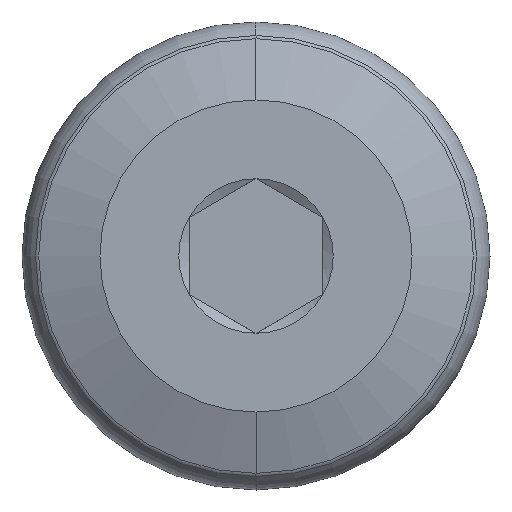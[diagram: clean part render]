
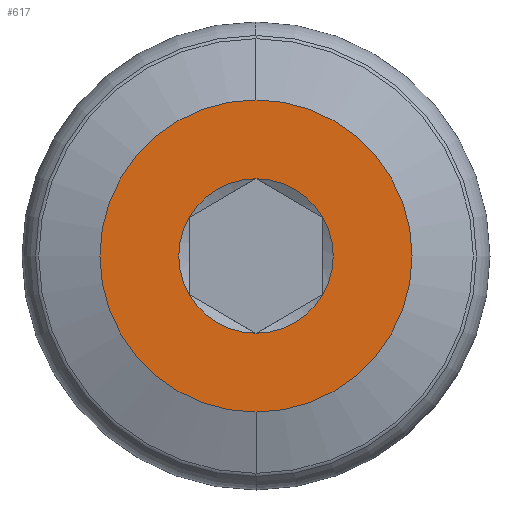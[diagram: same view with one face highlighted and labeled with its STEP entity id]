
A CAD part, left-side view. The second image highlights one B-rep face of the part: STEP entity #617.
In plain terms, the highlighted planar face has unit normal (-1, 0, 0).
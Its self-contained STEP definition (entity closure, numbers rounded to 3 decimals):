
#2 = DIRECTION ( 'NONE',  ( 0., 0., -1. ) ) ;
#25 = VERTEX_POINT ( 'NONE', #403 ) ;
#53 = VERTEX_POINT ( 'NONE', #69 ) ;
#69 = CARTESIAN_POINT ( 'NONE',  ( 0., 0., -3.5 ) ) ;
#73 = ORIENTED_EDGE ( 'NONE', *, *, #488, .T. ) ;
#75 = CARTESIAN_POINT ( 'NONE',  ( 0., 0., 0. ) ) ;
#110 = CARTESIAN_POINT ( 'NONE',  ( 0., 0., 0. ) ) ;
#127 = VERTEX_POINT ( 'NONE', #561 ) ;
#130 = ORIENTED_EDGE ( 'NONE', *, *, #410, .T. ) ;
#158 = CARTESIAN_POINT ( 'NONE',  ( 0., 0., 0. ) ) ;
#163 = CIRCLE ( 'NONE', #430, 1.732 ) ;
#194 = CIRCLE ( 'NONE', #804, 1.732 ) ;
#195 = AXIS2_PLACEMENT_3D ( 'NONE', #158, #489, #431 ) ;
#210 = AXIS2_PLACEMENT_3D ( 'NONE', #657, #273, #600 ) ;
#223 = CIRCLE ( 'NONE', #793, 1.732 ) ;
#225 = VERTEX_POINT ( 'NONE', #318 ) ;
#229 = CARTESIAN_POINT ( 'NONE',  ( 0., -1.5, -0.866 ) ) ;
#232 = EDGE_CURVE ( 'NONE', #686, #517, #290, .T. ) ;
#243 = CIRCLE ( 'NONE', #322, 1.732 ) ;
#244 = EDGE_LOOP ( 'NONE', ( #729, #525 ) ) ;
#246 = DIRECTION ( 'NONE',  ( 0., 0., -1. ) ) ;
#267 = CARTESIAN_POINT ( 'NONE',  ( 0., 0., 1.732 ) ) ;
#272 = ORIENTED_EDGE ( 'NONE', *, *, #232, .T. ) ;
#273 = DIRECTION ( 'NONE',  ( -1., 0., 0. ) ) ;
#279 = DIRECTION ( 'NONE',  ( 1., 0., 0. ) ) ;
#290 = CIRCLE ( 'NONE', #740, 1.732 ) ;
#318 = CARTESIAN_POINT ( 'NONE',  ( 0., 1.5, -0.866 ) ) ;
#322 = AXIS2_PLACEMENT_3D ( 'NONE', #377, #425, #246 ) ;
#335 = CARTESIAN_POINT ( 'NONE',  ( 0., -1.5, 0.866 ) ) ;
#349 = ORIENTED_EDGE ( 'NONE', *, *, #825, .T. ) ;
#363 = EDGE_CURVE ( 'NONE', #25, #53, #689, .T. ) ;
#377 = CARTESIAN_POINT ( 'NONE',  ( 0., 0., 0. ) ) ;
#393 = DIRECTION ( 'NONE',  ( 1., 0., 0. ) ) ;
#400 = EDGE_CURVE ( 'NONE', #517, #552, #223, .T. ) ;
#403 = CARTESIAN_POINT ( 'NONE',  ( 0., 0., 3.5 ) ) ;
#404 = FACE_OUTER_BOUND ( 'NONE', #244, .T. ) ;
#410 = EDGE_CURVE ( 'NONE', #552, #743, #163, .T. ) ;
#425 = DIRECTION ( 'NONE',  ( 1., 0., 0. ) ) ;
#430 = AXIS2_PLACEMENT_3D ( 'NONE', #75, #533, #2 ) ;
#431 = DIRECTION ( 'NONE',  ( 0., 0., -1. ) ) ;
#453 = CIRCLE ( 'NONE', #195, 3.5 ) ;
#462 = CARTESIAN_POINT ( 'NONE',  ( 0., 0., 0. ) ) ;
#476 = DIRECTION ( 'NONE',  ( 0., 0., -1. ) ) ;
#482 = CARTESIAN_POINT ( 'NONE',  ( 0., 1.5, 0.866 ) ) ;
#488 = EDGE_CURVE ( 'NONE', #127, #225, #194, .T. ) ;
#489 = DIRECTION ( 'NONE',  ( 1., 0., 0. ) ) ;
#499 = CARTESIAN_POINT ( 'NONE',  ( 0., 0., 0. ) ) ;
#517 = VERTEX_POINT ( 'NONE', #267 ) ;
#525 = ORIENTED_EDGE ( 'NONE', *, *, #363, .F. ) ;
#527 = PLANE ( 'NONE',  #210 ) ;
#529 = DIRECTION ( 'NONE',  ( 0., 0., -1. ) ) ;
#533 = DIRECTION ( 'NONE',  ( 1., 0., 0. ) ) ;
#552 = VERTEX_POINT ( 'NONE', #335 ) ;
#561 = CARTESIAN_POINT ( 'NONE',  ( 0., 0., -1.732 ) ) ;
#564 = DIRECTION ( 'NONE',  ( 1., 0., 0. ) ) ;
#571 = DIRECTION ( 'NONE',  ( 0., 0., -1. ) ) ;
#572 = ORIENTED_EDGE ( 'NONE', *, *, #836, .T. ) ;
#585 = ORIENTED_EDGE ( 'NONE', *, *, #400, .T. ) ;
#597 = CARTESIAN_POINT ( 'NONE',  ( 0., 0., 0. ) ) ;
#600 = DIRECTION ( 'NONE',  ( 0., 0., 1. ) ) ;
#608 = FACE_BOUND ( 'NONE', #759, .T. ) ;
#617 = ADVANCED_FACE ( 'NONE', ( #608, #404 ), #527, .T. ) ;
#623 = AXIS2_PLACEMENT_3D ( 'NONE', #499, #564, #476 ) ;
#657 = CARTESIAN_POINT ( 'NONE',  ( 0., 3.5, 0. ) ) ;
#666 = AXIS2_PLACEMENT_3D ( 'NONE', #749, #812, #799 ) ;
#686 = VERTEX_POINT ( 'NONE', #482 ) ;
#689 = CIRCLE ( 'NONE', #623, 3.5 ) ;
#705 = CIRCLE ( 'NONE', #666, 1.732 ) ;
#712 = DIRECTION ( 'NONE',  ( 1., 0., 0. ) ) ;
#729 = ORIENTED_EDGE ( 'NONE', *, *, #748, .F. ) ;
#740 = AXIS2_PLACEMENT_3D ( 'NONE', #110, #393, #571 ) ;
#743 = VERTEX_POINT ( 'NONE', #229 ) ;
#748 = EDGE_CURVE ( 'NONE', #53, #25, #453, .T. ) ;
#749 = CARTESIAN_POINT ( 'NONE',  ( 0., 0., 0. ) ) ;
#759 = EDGE_LOOP ( 'NONE', ( #272, #585, #130, #572, #73, #349 ) ) ;
#765 = DIRECTION ( 'NONE',  ( 0., 0., -1. ) ) ;
#793 = AXIS2_PLACEMENT_3D ( 'NONE', #597, #279, #529 ) ;
#799 = DIRECTION ( 'NONE',  ( 0., 0., -1. ) ) ;
#804 = AXIS2_PLACEMENT_3D ( 'NONE', #462, #712, #765 ) ;
#812 = DIRECTION ( 'NONE',  ( 1., 0., 0. ) ) ;
#825 = EDGE_CURVE ( 'NONE', #225, #686, #705, .T. ) ;
#836 = EDGE_CURVE ( 'NONE', #743, #127, #243, .T. ) ;
